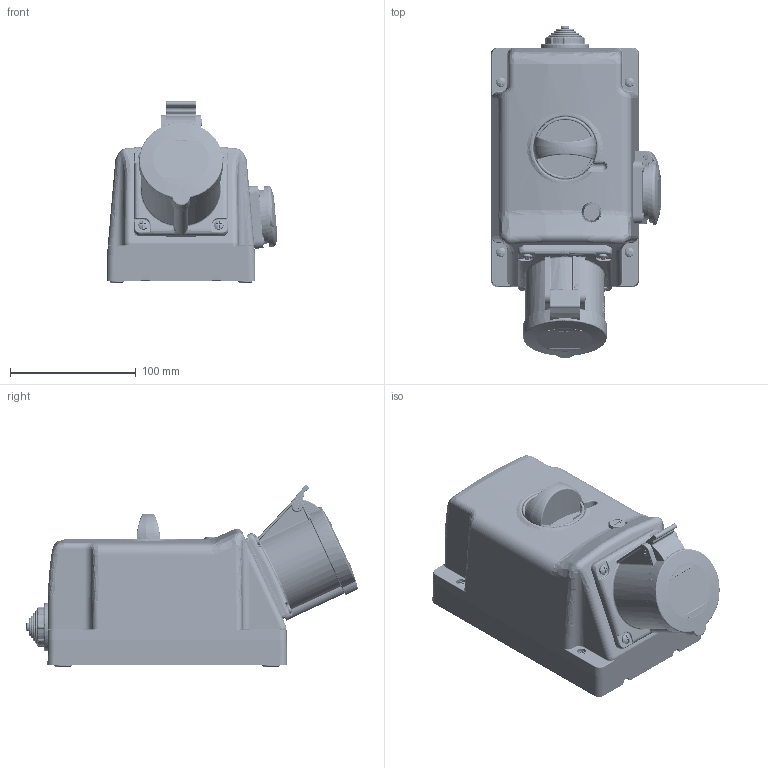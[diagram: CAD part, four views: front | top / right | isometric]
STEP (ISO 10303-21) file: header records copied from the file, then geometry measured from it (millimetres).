
FILE_DESCRIPTION(/* description */ (''),/* implementation_level */ '2;1');
FILE_NAME(/* name */ '4006914.stp',/* time_stamp */ '2024-04-10T07:58:55+02:00',/* author */ (''),/* organization */ (''),/* preprocessor_version */ 'ST-DEVELOPER v19.4',/* originating_system */ 'SIEMENS PLM Software NX2306.8301',/* authorisation */ '');
FILE_SCHEMA (('AUTOMOTIVE_DESIGN { 1 0 10303 214 3 1 1 1 }'));
Products named in the file (1): BTTM4B94D61Apqdj
Bounding box: 135.48 x 263.55 x 143.99 mm (x, y, z)
Volume: 427411 mm3; surface area: 317161.8 mm2
Topology: 25 solids, 25 shells, 5443 faces, 13695 edges, 8415 vertices
Faces by surface type: plane 1807, cylinder 1228, bspline 1170, extrusion 460, cone 342, torus 302, sphere 129, revolution 5
Full cylindrical faces by diameter (mm): 0.2 x1, 0.4 x1, 0.998 x4, 1.5 x1, 2.7 x1, 2.8 x6, 3 x8, 3.2 x4, 4 x22, 4.1 x4, 4.2 x8, 4.3 x2, 5 x1, 5.1 x4, 5.5 x2, 7.1 x1, 7.5 x4, 7.6 x4, 7.8 x4, 11.1 x1, 21.3 x1, 25.4 x1, 30 x1, 31.998 x1, 38 x1, 45 x1, 49.7 x1
Entity records: 264202 total; most frequent: CARTESIAN_POINT 140290, ORIENTED_EDGE 26182, DIRECTION 21193, EDGE_CURVE 13091, VERTEX_POINT 8295, AXIS2_PLACEMENT_3D 7778, EDGE_LOOP 6147, VECTOR 5632
